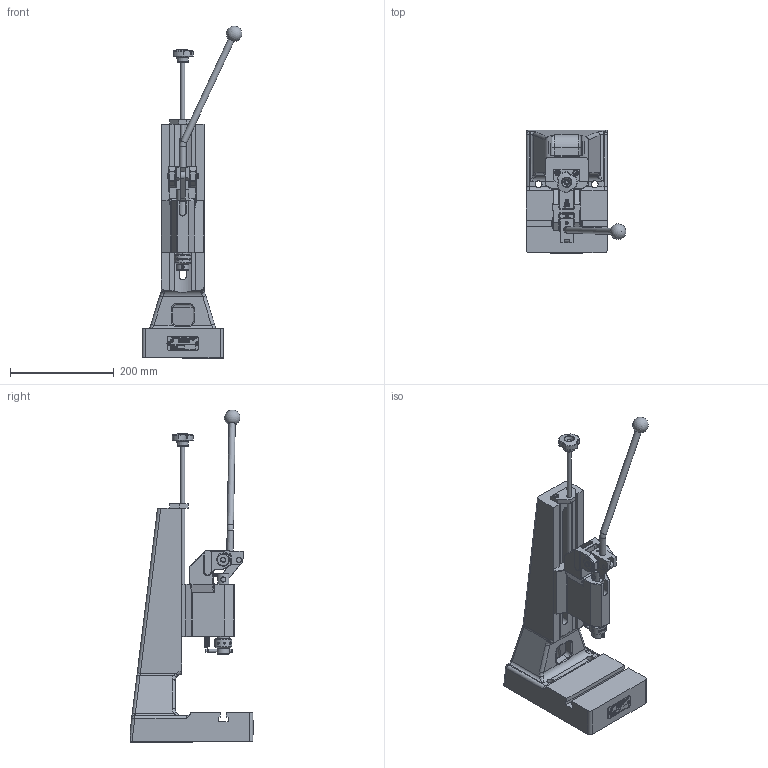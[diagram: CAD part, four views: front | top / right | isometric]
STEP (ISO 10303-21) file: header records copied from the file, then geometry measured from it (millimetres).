
FILE_DESCRIPTION(/* description */ ('Bausatz Ständer EP 750'),/* implementation_level */ '2;1');
FILE_NAME(/* name */ 'B:\02_CAD_oeffentlich\CAD_3D_oeffentlich_step\Kniehebel Presse\HKP_750_UTP.stp',/* time_stamp */ '2017-05-04T08:42:37+02:00',/* author */ ('Finsterle'),/* organization */ (''),/* preprocessor_version */ 'ST-DEVELOPER v16.1',/* originating_system */ 'Autodesk Inventor 2016',/* authorisation */ '');
FILE_SCHEMA (('AUTOMOTIVE_DESIGN { 1 0 10303 214 3 1 1 }'));
Products named in the file (5): HBF-001091_V; HBF-001095_V; HBF-000314; ENG-000755; HBF-001094_V
Assembly tree (5 placements, depth 2):
  HBF-001094_V
    HBF-001091_V
    HBF-001095_V
    HBF-000314
    ENG-000755  x2
Bounding box: 191.78 x 237.8 x 638.66 mm (x, y, z)
Volume: 3008039.2 mm3; surface area: 474286.1 mm2
Topology: 8 solids, 8 shells, 3933 faces, 10206 edges, 6545 vertices
Faces by surface type: plane 1874, bspline 1247, cylinder 402, cone 205, torus 119, sphere 86
Full cylindrical faces by diameter (mm): 1 x2, 2.5 x3, 3 x7, 3.15 x1, 3.2 x2, 3.242 x1, 4 x8, 4.5 x1, 4.917 x2, 6 x25, 6.4 x1, 6.5 x2, 7 x1, 8 x4, 8.1 x1, 9.5 x1, 9.98 x2, 10 x6, 10.02 x3, 10.03 x4, 11 x2, 11.98 x2, 12 x5, 13 x4, 18 x4, 19.8 x1, 24 x2, 33 x1, 40 x2
Entity records: 142508 total; most frequent: CARTESIAN_POINT 53488, ORIENTED_EDGE 19558, DIRECTION 13304, EDGE_CURVE 9779, VERTEX_POINT 6457, LINE 5728, VECTOR 5728, EDGE_LOOP 4570
